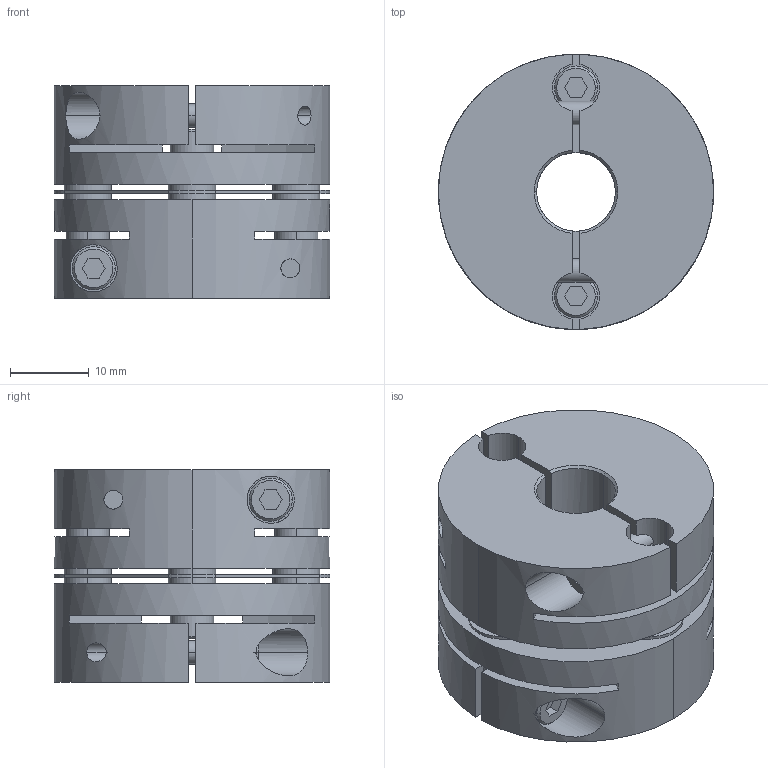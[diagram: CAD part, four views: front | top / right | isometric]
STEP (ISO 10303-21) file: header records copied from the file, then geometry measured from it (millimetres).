
FILE_DESCRIPTION((''),'2;1');
FILE_NAME('LAS-35C-10×15.stp','2011-08-10T16:44:33',(''),(''),'AutoCAD STEP 2000i','AutoCAD 2000i',', , ');
FILE_SCHEMA(('CONFIG_CONTROL_DESIGN'));
Length unit declared in the file: millimetre
Products named in the file (6): LAS-35C-8×14; 忣兜1; LA-3502-D14; LA-3502-D08-1; LA-3502-D08; LAS35-ITA
Assembly tree (5 placements, depth 2):
  LAS-35C-8×14
    忣兜1
    LA-3502-D14
    LA-3502-D08-1
    LA-3502-D08
    LAS35-ITA
Bounding box: 35 x 35 x 27 mm (x, y, z)
Volume: 18826.6 mm3; surface area: 11838 mm2
Topology: 1 solids, 1 shells, 236 faces, 624 edges, 408 vertices
Faces by surface type: plane 112, cylinder 96, cone 28
Entity records: 8251 total; most frequent: CARTESIAN_POINT 2068, DIRECTION 1288, ORIENTED_EDGE 1248, EDGE_CURVE 624, AXIS2_PLACEMENT_3D 470, VERTEX_POINT 408, VECTOR 348, LINE 348
